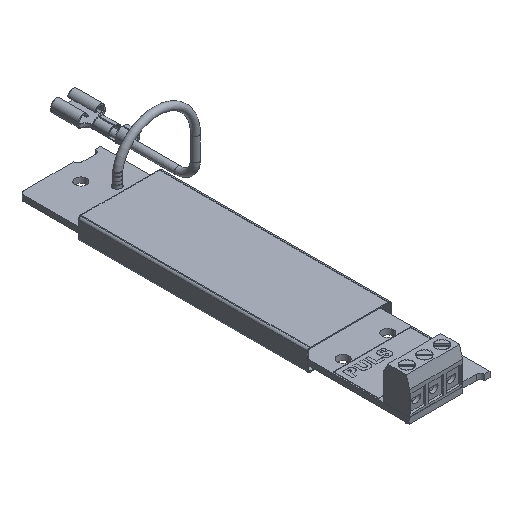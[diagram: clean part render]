
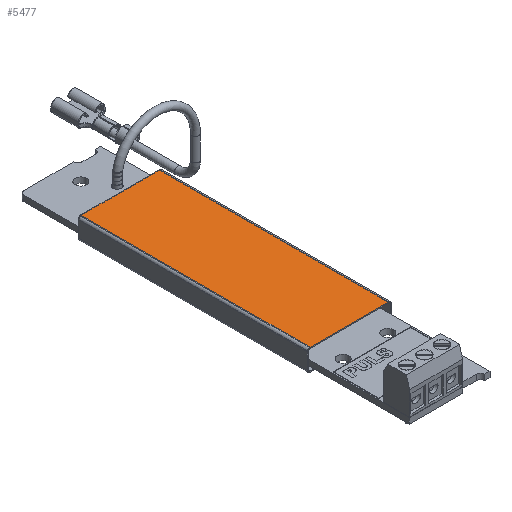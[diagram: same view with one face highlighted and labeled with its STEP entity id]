
A CAD part, isometric view. The second image highlights one B-rep face of the part: STEP entity #5477.
In plain terms, the highlighted planar face has unit normal (0, 0, 1).
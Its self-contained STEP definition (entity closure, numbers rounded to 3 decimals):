
#5227=CARTESIAN_POINT('',(-11.13,65.0,3.045));
#5228=VERTEX_POINT('',#5227);
#5246=CARTESIAN_POINT('',(-11.13,0.0,3.045));
#5247=VERTEX_POINT('',#5246);
#5255=CARTESIAN_POINT('',(-11.13,0.0,3.045));
#5256=DIRECTION('',(0.0,1.0,0.0));
#5257=VECTOR('',#5256,65.0);
#5258=LINE('',#5255,#5257);
#5259=EDGE_CURVE('',#5247,#5228,#5258,.T.);
#5428=CARTESIAN_POINT('',(11.13,65.0,3.045));
#5429=VERTEX_POINT('',#5428);
#5437=CARTESIAN_POINT('',(11.13,0.0,3.045));
#5438=VERTEX_POINT('',#5437);
#5439=CARTESIAN_POINT('',(11.13,0.0,3.045));
#5440=DIRECTION('',(0.0,1.0,0.0));
#5441=VECTOR('',#5440,65.0);
#5442=LINE('',#5439,#5441);
#5443=EDGE_CURVE('',#5438,#5429,#5442,.T.);
#5456=CARTESIAN_POINT('',(11.13,0.0,3.045));
#5457=DIRECTION('',(0.0,0.0,1.0));
#5458=DIRECTION('',(1.0,0.0,0.0));
#5459=AXIS2_PLACEMENT_3D('',#5456,#5457,#5458);
#5460=PLANE('',#5459);
#5461=CARTESIAN_POINT('',(11.13,65.0,3.045));
#5462=DIRECTION('',(-1.0,0.0,0.0));
#5463=VECTOR('',#5462,22.26);
#5464=LINE('',#5461,#5463);
#5465=EDGE_CURVE('',#5429,#5228,#5464,.T.);
#5466=ORIENTED_EDGE('',*,*,#5465,.T.);
#5467=ORIENTED_EDGE('',*,*,#5259,.F.);
#5468=CARTESIAN_POINT('',(11.13,0.0,3.045));
#5469=DIRECTION('',(-1.0,0.0,0.0));
#5470=VECTOR('',#5469,22.26);
#5471=LINE('',#5468,#5470);
#5472=EDGE_CURVE('',#5438,#5247,#5471,.T.);
#5473=ORIENTED_EDGE('',*,*,#5472,.F.);
#5474=ORIENTED_EDGE('',*,*,#5443,.T.);
#5475=EDGE_LOOP('',(#5466,#5467,#5473,#5474));
#5476=FACE_OUTER_BOUND('',#5475,.T.);
#5477=ADVANCED_FACE('',(#5476),#5460,.T.);
